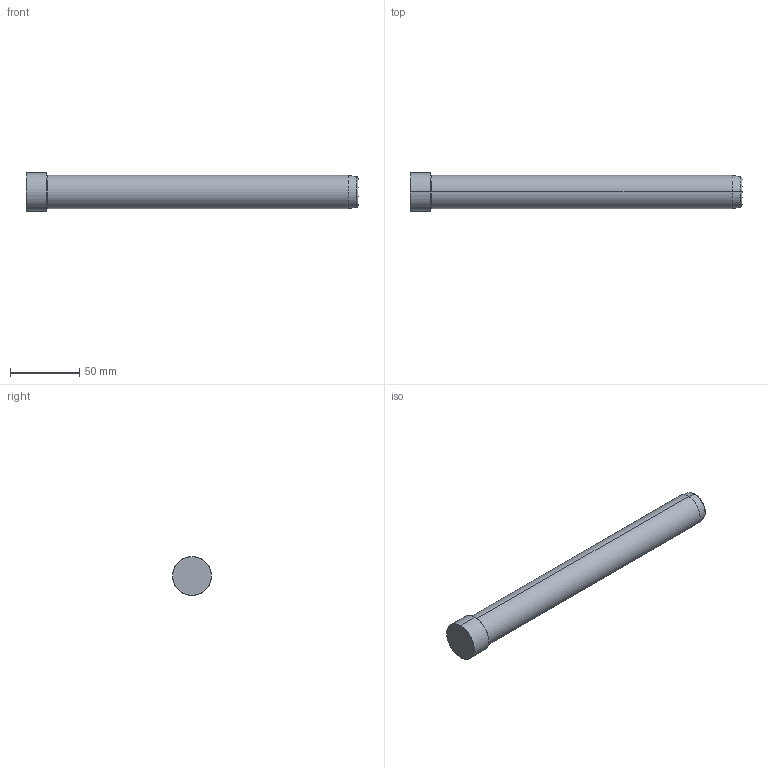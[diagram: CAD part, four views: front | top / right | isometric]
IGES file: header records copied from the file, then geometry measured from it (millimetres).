
Start section: SolidWorks IGES FILE using analytic representation for surfaces
Global section: file name: D:\zzzzz\Delta\D01 D\24\D01 D - 24x240.IGS; native system: SolidWorks 2004 by SolidWorks Corporation; preprocessor: Version 5.3; author: Hkn; date: 080327.145448; units: millimetre
Bounding box: 240 x 28 x 28 mm (x, y, z)
Surface area: 19425 mm2 (no closed solid volume)
Topology: 0 solids, 0 shells, 14 faces, 296 edges, 296 vertices
Faces by surface type: revolution 8, bspline 6
